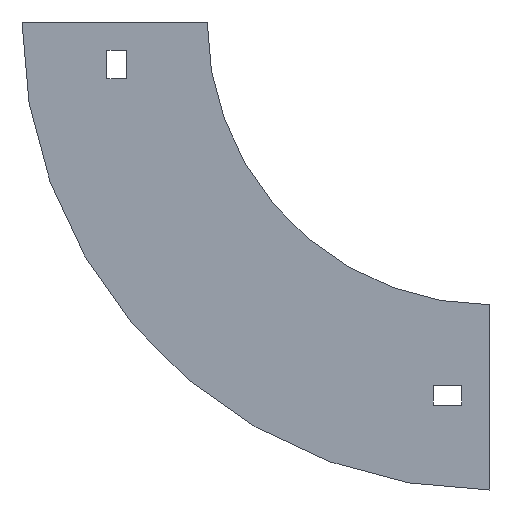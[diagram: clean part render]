
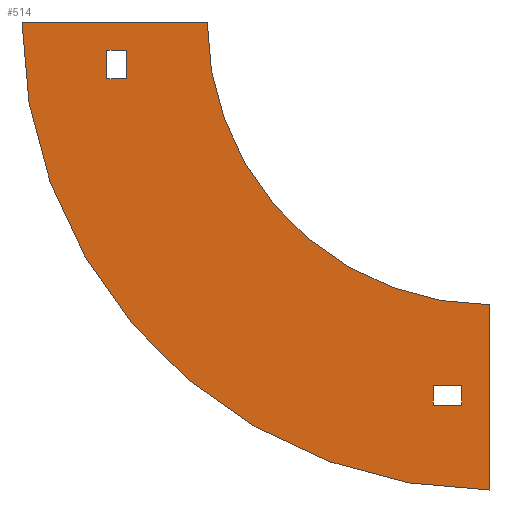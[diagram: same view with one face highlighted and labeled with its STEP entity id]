
A CAD part, left-side view. The second image highlights one B-rep face of the part: STEP entity #514.
In plain terms, the highlighted planar face has unit normal (-1, 0, 0).
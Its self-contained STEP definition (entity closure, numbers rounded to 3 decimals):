
#2 = CARTESIAN_POINT ( 'NONE',  ( -152., 35.5, -10. ) ) ;
#9 = CARTESIAN_POINT ( 'NONE',  ( -152., -80., -128.5 ) ) ;
#10 = LINE ( 'NONE', #350, #632 ) ;
#11 = EDGE_CURVE ( 'NONE', #71, #615, #756, .T. ) ;
#14 = CARTESIAN_POINT ( 'NONE',  ( -152., 28.5, -10. ) ) ;
#17 = CARTESIAN_POINT ( 'NONE',  ( -152., 35.5, -10. ) ) ;
#25 = ORIENTED_EDGE ( 'NONE', *, *, #373, .F. ) ;
#54 = DIRECTION ( 'NONE',  ( 0., -1., 0. ) ) ;
#58 = LINE ( 'NONE', #1045, #712 ) ;
#61 = ORIENTED_EDGE ( 'NONE', *, *, #403, .F. ) ;
#71 = VERTEX_POINT ( 'NONE', #180 ) ;
#90 = CARTESIAN_POINT ( 'NONE',  ( -152., 28.5, -20. ) ) ;
#93 = DIRECTION ( 'NONE',  ( 0., 0., -1. ) ) ;
#109 = VERTEX_POINT ( 'NONE', #711 ) ;
#112 = CARTESIAN_POINT ( 'NONE',  ( -152., 65.5, 0. ) ) ;
#127 = CARTESIAN_POINT ( 'NONE',  ( -152., -100., -100. ) ) ;
#135 = EDGE_CURVE ( 'NONE', #876, #857, #896, .T. ) ;
#149 = EDGE_CURVE ( 'NONE', #1081, #202, #10, .T. ) ;
#152 = VERTEX_POINT ( 'NONE', #442 ) ;
#156 = EDGE_CURVE ( 'NONE', #152, #876, #793, .T. ) ;
#180 = CARTESIAN_POINT ( 'NONE',  ( -152., -90., -128.5 ) ) ;
#200 = DIRECTION ( 'NONE',  ( 0., -1., 0. ) ) ;
#202 = VERTEX_POINT ( 'NONE', #231 ) ;
#208 = VECTOR ( 'NONE', #669, 1000. ) ;
#230 = EDGE_CURVE ( 'NONE', #809, #1042, #832, .T. ) ;
#231 = CARTESIAN_POINT ( 'NONE',  ( -152., -100., -165.5 ) ) ;
#232 = AXIS2_PLACEMENT_3D ( 'NONE', #257, #238, #329 ) ;
#238 = DIRECTION ( 'NONE',  ( -1., 0., 0. ) ) ;
#257 = CARTESIAN_POINT ( 'NONE',  ( -152., -100., 0. ) ) ;
#276 = PLANE ( 'NONE',  #550 ) ;
#292 = VECTOR ( 'NONE', #54, 1000. ) ;
#299 = EDGE_LOOP ( 'NONE', ( #815, #731, #1111, #908 ) ) ;
#314 = VECTOR ( 'NONE', #963, 1000. ) ;
#315 = ORIENTED_EDGE ( 'NONE', *, *, #1140, .F. ) ;
#320 = CARTESIAN_POINT ( 'NONE',  ( -152., -90., -128.5 ) ) ;
#321 = CARTESIAN_POINT ( 'NONE',  ( -152., 35.5, -10. ) ) ;
#329 = DIRECTION ( 'NONE',  ( 0., 0., 1. ) ) ;
#350 = CARTESIAN_POINT ( 'NONE',  ( -152., -100., -100. ) ) ;
#357 = DIRECTION ( 'NONE',  ( 0., 0., 1. ) ) ;
#373 = EDGE_CURVE ( 'NONE', #487, #1081, #582, .T. ) ;
#382 = VECTOR ( 'NONE', #777, 1000. ) ;
#394 = LINE ( 'NONE', #842, #208 ) ;
#403 = EDGE_CURVE ( 'NONE', #615, #809, #767, .T. ) ;
#431 = CARTESIAN_POINT ( 'NONE',  ( -152., -80., -135.5 ) ) ;
#436 = CARTESIAN_POINT ( 'NONE',  ( -152., 35.5, -20. ) ) ;
#442 = CARTESIAN_POINT ( 'NONE',  ( -152., 35.5, -20. ) ) ;
#446 = EDGE_CURVE ( 'NONE', #857, #827, #58, .T. ) ;
#455 = DIRECTION ( 'NONE',  ( 0., -1., 0. ) ) ;
#459 = CARTESIAN_POINT ( 'NONE',  ( -152., -80., -135.5 ) ) ;
#477 = CARTESIAN_POINT ( 'NONE',  ( -152., -90., -135.5 ) ) ;
#487 = VERTEX_POINT ( 'NONE', #1148 ) ;
#489 = VECTOR ( 'NONE', #357, 1000. ) ;
#514 = ADVANCED_FACE ( 'NONE', ( #1062, #1077, #517 ), #276, .T. ) ;
#517 = FACE_BOUND ( 'NONE', #1118, .T. ) ;
#543 = DIRECTION ( 'NONE',  ( -1., 0., 0. ) ) ;
#547 = ORIENTED_EDGE ( 'NONE', *, *, #554, .F. ) ;
#550 = AXIS2_PLACEMENT_3D ( 'NONE', #696, #543, #792 ) ;
#554 = EDGE_CURVE ( 'NONE', #109, #487, #618, .T. ) ;
#582 = CIRCLE ( 'NONE', #232, 100. ) ;
#588 = EDGE_CURVE ( 'NONE', #827, #152, #813, .T. ) ;
#603 = VECTOR ( 'NONE', #667, 1000. ) ;
#615 = VERTEX_POINT ( 'NONE', #9 ) ;
#617 = EDGE_CURVE ( 'NONE', #202, #109, #1001, .T. ) ;
#618 = LINE ( 'NONE', #112, #959 ) ;
#625 = DIRECTION ( 'NONE',  ( 0., 0., 1. ) ) ;
#632 = VECTOR ( 'NONE', #93, 1000. ) ;
#667 = DIRECTION ( 'NONE',  ( 0., 1., 0. ) ) ;
#669 = DIRECTION ( 'NONE',  ( 0., 0., 1. ) ) ;
#696 = CARTESIAN_POINT ( 'NONE',  ( -152., -100., 0. ) ) ;
#709 = CARTESIAN_POINT ( 'NONE',  ( -152., -100., 0. ) ) ;
#711 = CARTESIAN_POINT ( 'NONE',  ( -152., 65.5, 0. ) ) ;
#712 = VECTOR ( 'NONE', #761, 1000. ) ;
#731 = ORIENTED_EDGE ( 'NONE', *, *, #446, .T. ) ;
#745 = ORIENTED_EDGE ( 'NONE', *, *, #230, .F. ) ;
#756 = LINE ( 'NONE', #320, #603 ) ;
#761 = DIRECTION ( 'NONE',  ( 0., 0., -1. ) ) ;
#767 = LINE ( 'NONE', #431, #382 ) ;
#777 = DIRECTION ( 'NONE',  ( 0., 0., -1. ) ) ;
#792 = DIRECTION ( 'NONE',  ( 0., 0., 1. ) ) ;
#793 = LINE ( 'NONE', #2, #489 ) ;
#809 = VERTEX_POINT ( 'NONE', #459 ) ;
#813 = LINE ( 'NONE', #436, #314 ) ;
#815 = ORIENTED_EDGE ( 'NONE', *, *, #135, .T. ) ;
#827 = VERTEX_POINT ( 'NONE', #90 ) ;
#832 = LINE ( 'NONE', #843, #292 ) ;
#842 = CARTESIAN_POINT ( 'NONE',  ( -152., -90., -135.5 ) ) ;
#843 = CARTESIAN_POINT ( 'NONE',  ( -152., -90., -135.5 ) ) ;
#857 = VERTEX_POINT ( 'NONE', #14 ) ;
#876 = VERTEX_POINT ( 'NONE', #321 ) ;
#896 = LINE ( 'NONE', #17, #897 ) ;
#897 = VECTOR ( 'NONE', #200, 1000. ) ;
#908 = ORIENTED_EDGE ( 'NONE', *, *, #156, .T. ) ;
#927 = AXIS2_PLACEMENT_3D ( 'NONE', #709, #1069, #625 ) ;
#952 = EDGE_LOOP ( 'NONE', ( #25, #547, #1091, #1133 ) ) ;
#959 = VECTOR ( 'NONE', #455, 1000. ) ;
#963 = DIRECTION ( 'NONE',  ( 0., 1., 0. ) ) ;
#1001 = CIRCLE ( 'NONE', #927, 165.5 ) ;
#1033 = ORIENTED_EDGE ( 'NONE', *, *, #11, .F. ) ;
#1042 = VERTEX_POINT ( 'NONE', #477 ) ;
#1045 = CARTESIAN_POINT ( 'NONE',  ( -152., 28.5, -10. ) ) ;
#1062 = FACE_BOUND ( 'NONE', #299, .T. ) ;
#1069 = DIRECTION ( 'NONE',  ( 1., 0., 0. ) ) ;
#1077 = FACE_OUTER_BOUND ( 'NONE', #952, .T. ) ;
#1081 = VERTEX_POINT ( 'NONE', #127 ) ;
#1091 = ORIENTED_EDGE ( 'NONE', *, *, #617, .F. ) ;
#1111 = ORIENTED_EDGE ( 'NONE', *, *, #588, .T. ) ;
#1118 = EDGE_LOOP ( 'NONE', ( #1033, #315, #745, #61 ) ) ;
#1133 = ORIENTED_EDGE ( 'NONE', *, *, #149, .F. ) ;
#1140 = EDGE_CURVE ( 'NONE', #1042, #71, #394, .T. ) ;
#1148 = CARTESIAN_POINT ( 'NONE',  ( -152., 0., 0. ) ) ;
